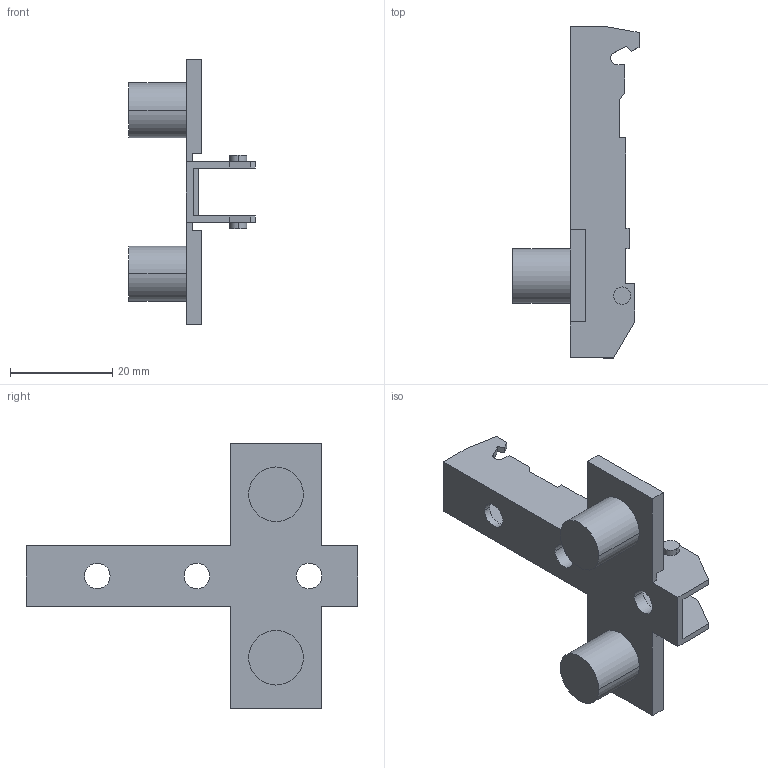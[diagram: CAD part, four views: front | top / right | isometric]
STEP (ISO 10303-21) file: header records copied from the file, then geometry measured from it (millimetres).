
FILE_DESCRIPTION (( 'STEP AP214' ), '1' );
FILE_NAME ('Eco Kreuzmontageplatte LR28_32_Dübel 10mm_H03.step', '2010-11-18T10:06:48', ( 'grass' ), ( '' ), 'SwSTEP 2.0', 'SolidWorks 2010', '' );
FILE_SCHEMA (( 'AUTOMOTIVE_DESIGN' ));
Length unit declared in the file: millimetre
Products named in the file (1): Eco Kreuzmontageplatte LR28_32_Dübel 10mm_H03
Bounding box: 24.7 x 65 x 52 mm (x, y, z)
Volume: 6587.3 mm3; surface area: 6916 mm2
Topology: 1 solids, 1 shells, 98 faces, 262 edges, 172 vertices
Faces by surface type: plane 74, cylinder 20, cone 4
Entity records: 3072 total; most frequent: CARTESIAN_POINT 533, ORIENTED_EDGE 524, DIRECTION 504, EDGE_CURVE 262, LINE 218, VECTOR 218, VERTEX_POINT 172, AXIS2_PLACEMENT_3D 143
